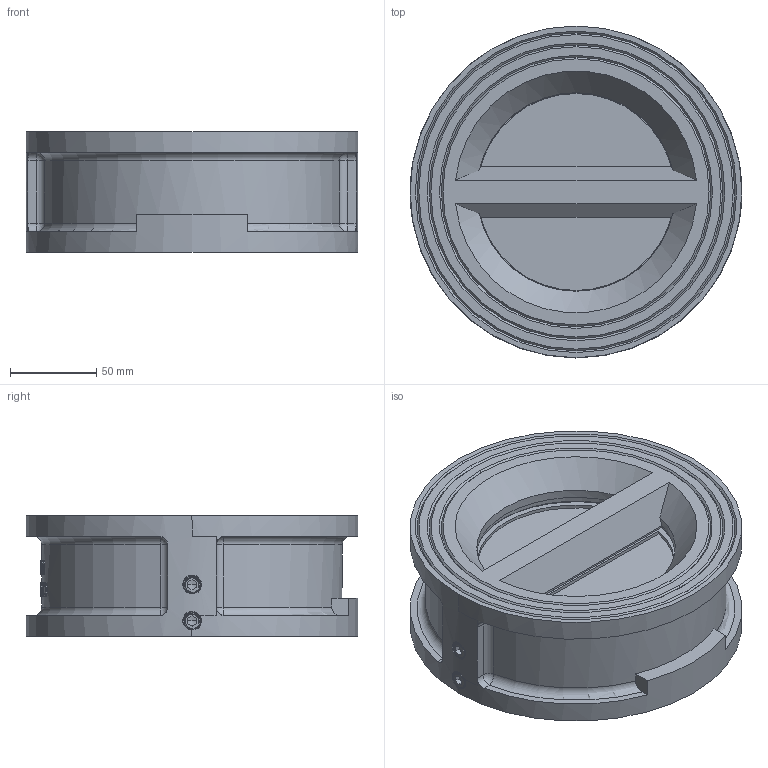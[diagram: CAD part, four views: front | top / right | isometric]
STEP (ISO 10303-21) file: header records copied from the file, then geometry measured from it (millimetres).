
FILE_DESCRIPTION((''),'2;1');
FILE_NAME('00-5_ASM','2014-07-22T',('Administrator'),(''),'PRO/ENGINEER BY PARAMETRIC TECHNOLOGY CORPORATION, 2010370','PRO/ENGINEER BY PARAMETRIC TECHNOLOGY CORPORATION, 2010370','');
FILE_SCHEMA(('CONFIG_CONTROL_DESIGN'));
Length unit declared in the file: millimetre
Products named in the file (9): 5-BODY_; 5-DISC_; 5_; HUANG-5-1_; 4-5_; M10-1_; 5-F4-H_; 5-F4-B_; 00-5_ASM
Assembly tree (22 placements, depth 2):
  00-5_ASM
    5-BODY_
    5-DISC_  x2
    5_  x2
    HUANG-5-1_  x2
    4-5_  x4
    M10-1_  x6
    5-F4-H_  x2
    5-F4-B_  x3
Bounding box: 192 x 192 x 70 mm (x, y, z)
Volume: 947166.7 mm3; surface area: 194726.6 mm2
Topology: 22 solids, 22 shells, 1166 faces, 3116 edges, 2033 vertices
Faces by surface type: plane 759, cylinder 206, bspline 110, cone 62, torus 21, sphere 8
Entity records: 38298 total; most frequent: CARTESIAN_POINT 20198, ORIENTED_EDGE 4118, DIRECTION 3084, EDGE_CURVE 2059, VERTEX_POINT 1358, VECTOR 1058, LINE 1058, AXIS2_PLACEMENT_3D 1013
